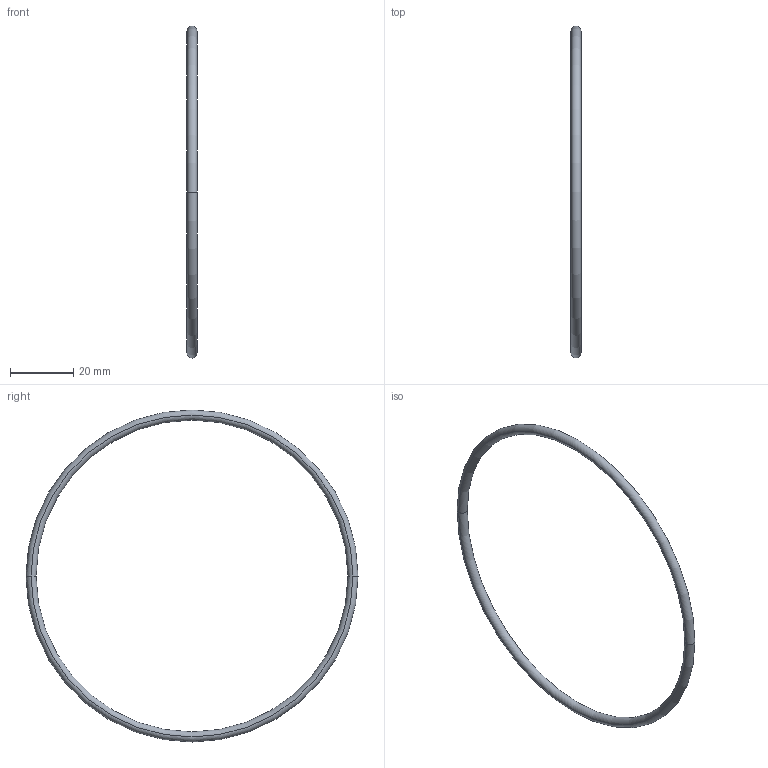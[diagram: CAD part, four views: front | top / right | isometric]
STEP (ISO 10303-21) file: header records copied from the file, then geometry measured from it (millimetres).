
FILE_DESCRIPTION(/* description */ ('VariCAD 2010-1.04 AP-203'),/* implementation_level */ '2;1');
FILE_NAME(/* name */ '0353-30-11',/* time_stamp */ '2010-01-13T00:59:08-07:00',/* author */ (''),/* organization */ (''),/* preprocessor_version */ 'ST-DEVELOPER v12',/* originating_system */ 'VariCAD 2010-1.04; kernel version (20090520)',/* authorisation */ '');
FILE_SCHEMA (('CONFIG_CONTROL_DESIGN'));
Length unit declared in the file: millimetre
Products named in the file (1): Part
Bounding box: 3.18 x 104.78 x 104.78 mm (x, y, z)
Volume: 2535.1 mm3; surface area: 3188.8 mm2
Topology: 1 solids, 1 shells, 4 faces, 8 edges, 4 vertices
Faces by surface type: torus 4
Entity records: 158 total; most frequent: DIRECTION 28, CARTESIAN_POINT 18, ORIENTED_EDGE 16, AXIS2_PLACEMENT_3D 14, EDGE_CURVE 8, CIRCLE 8, CC_DESIGN_PERSON_AND_ORGANIZATION_ASSIGNMENT 4, PERSON_AND_ORGANIZATION_ROLE 4
